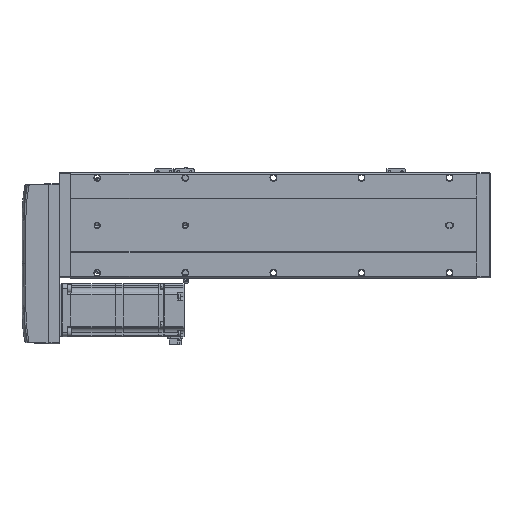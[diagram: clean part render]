
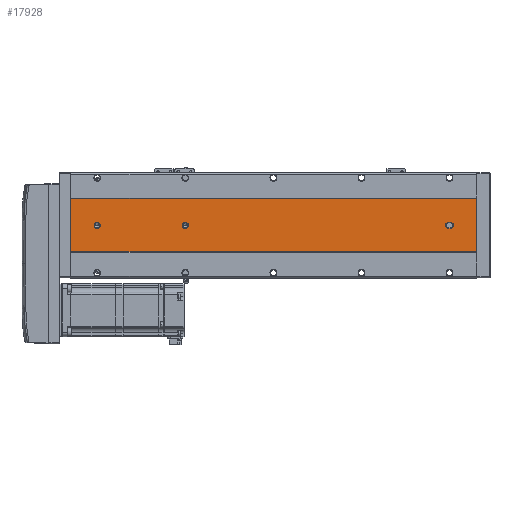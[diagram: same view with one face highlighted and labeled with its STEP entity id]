
A CAD part, front view. The second image highlights one B-rep face of the part: STEP entity #17928.
In plain terms, the highlighted planar face has unit normal (0, -1, 0).
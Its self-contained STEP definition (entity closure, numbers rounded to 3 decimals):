
#309 = VECTOR ( 'NONE', #60527, 1000. ) ;
#969 = DIRECTION ( 'NONE',  ( 0., 1., 0. ) ) ;
#1381 = ORIENTED_EDGE ( 'NONE', *, *, #59465, .T. ) ;
#1453 = ORIENTED_EDGE ( 'NONE', *, *, #68700, .T. ) ;
#1557 = EDGE_CURVE ( 'NONE', #54780, #21037, #77417, .T. ) ;
#1590 = CARTESIAN_POINT ( 'NONE',  ( -39.892, -52.848, 30. ) ) ;
#1938 = FACE_BOUND ( 'NONE', #61870, .T. ) ;
#2111 = DIRECTION ( 'NONE',  ( 0., 0., 1. ) ) ;
#2191 = ORIENTED_EDGE ( 'NONE', *, *, #1557, .F. ) ;
#2930 = CARTESIAN_POINT ( 'NONE',  ( -39.892, -52.848, 26.5 ) ) ;
#2931 = CIRCLE ( 'NONE', #20535, 3.5 ) ;
#3064 = CARTESIAN_POINT ( 'NONE',  ( -9.892, -52.848, 0. ) ) ;
#3771 = EDGE_CURVE ( 'NONE', #43017, #50522, #19777, .T. ) ;
#4142 = ORIENTED_EDGE ( 'NONE', *, *, #76692, .T. ) ;
#4808 = DIRECTION ( 'NONE',  ( 0., 0., 1. ) ) ;
#6538 = CARTESIAN_POINT ( 'NONE',  ( -43.392, -52.848, 461. ) ) ;
#6578 = CIRCLE ( 'NONE', #23317, 3.5 ) ;
#7129 = VECTOR ( 'NONE', #9629, 1000. ) ;
#8374 = EDGE_LOOP ( 'NONE', ( #1381, #47002 ) ) ;
#9089 = ORIENTED_EDGE ( 'NONE', *, *, #20696, .T. ) ;
#9419 = FACE_OUTER_BOUND ( 'NONE', #19069, .T. ) ;
#9629 = DIRECTION ( 'NONE',  ( 0., 0., -1. ) ) ;
#10677 = ORIENTED_EDGE ( 'NONE', *, *, #11744, .T. ) ;
#11744 = EDGE_CURVE ( 'NONE', #66891, #38755, #38916, .T. ) ;
#13024 = PLANE ( 'NONE',  #58949 ) ;
#13265 = VECTOR ( 'NONE', #66787, 1000. ) ;
#14032 = EDGE_LOOP ( 'NONE', ( #4142, #19218 ) ) ;
#14143 = CARTESIAN_POINT ( 'NONE',  ( -69.892, -52.848, 0. ) ) ;
#14411 = CARTESIAN_POINT ( 'NONE',  ( -36.392, -52.848, 30. ) ) ;
#15789 = AXIS2_PLACEMENT_3D ( 'NONE', #30866, #969, #72259 ) ;
#16179 = VERTEX_POINT ( 'NONE', #67541 ) ;
#16968 = CARTESIAN_POINT ( 'NONE',  ( -69.892, -52.848, 461. ) ) ;
#17928 = ADVANCED_FACE ( 'NONE', ( #1938, #41386, #27307, #9419 ), #13024, .F. ) ;
#18132 = LINE ( 'NONE', #6538, #309 ) ;
#18307 = DIRECTION ( 'NONE',  ( 1., 0., 0. ) ) ;
#19069 = EDGE_LOOP ( 'NONE', ( #9089, #2191, #38492, #10677 ) ) ;
#19218 = ORIENTED_EDGE ( 'NONE', *, *, #63668, .T. ) ;
#19219 = VERTEX_POINT ( 'NONE', #63360 ) ;
#19777 = CIRCLE ( 'NONE', #15789, 3.5 ) ;
#20535 = AXIS2_PLACEMENT_3D ( 'NONE', #70149, #63881, #46046 ) ;
#20619 = CARTESIAN_POINT ( 'NONE',  ( -36.392, -52.848, 32. ) ) ;
#20696 = EDGE_CURVE ( 'NONE', #38755, #21037, #68992, .T. ) ;
#21037 = VERTEX_POINT ( 'NONE', #3064 ) ;
#21322 = AXIS2_PLACEMENT_3D ( 'NONE', #61865, #31245, #2111 ) ;
#22101 = DIRECTION ( 'NONE',  ( 0., 1., 0. ) ) ;
#23317 = AXIS2_PLACEMENT_3D ( 'NONE', #32940, #29230, #4808 ) ;
#25005 = EDGE_CURVE ( 'NONE', #60704, #74140, #37697, .T. ) ;
#26132 = VERTEX_POINT ( 'NONE', #14411 ) ;
#26953 = EDGE_CURVE ( 'NONE', #54447, #19219, #38305, .T. ) ;
#27307 = FACE_BOUND ( 'NONE', #8374, .T. ) ;
#27518 = CARTESIAN_POINT ( 'NONE',  ( -9.892, -52.848, 461. ) ) ;
#27536 = CIRCLE ( 'NONE', #66321, 3.5 ) ;
#27874 = EDGE_CURVE ( 'NONE', #50522, #26132, #41525, .T. ) ;
#29075 = ORIENTED_EDGE ( 'NONE', *, *, #40218, .T. ) ;
#29230 = DIRECTION ( 'NONE',  ( 0., 1., 0. ) ) ;
#30123 = CARTESIAN_POINT ( 'NONE',  ( -69.892, -52.848, 0. ) ) ;
#30366 = CARTESIAN_POINT ( 'NONE',  ( -36.392, -52.848, 461. ) ) ;
#30866 = CARTESIAN_POINT ( 'NONE',  ( -39.892, -52.848, 32. ) ) ;
#31245 = DIRECTION ( 'NONE',  ( 0., 1., 0. ) ) ;
#31681 = DIRECTION ( 'NONE',  ( 0., 1., 0. ) ) ;
#32133 = CARTESIAN_POINT ( 'NONE',  ( -69.892, -52.848, 461. ) ) ;
#32940 = CARTESIAN_POINT ( 'NONE',  ( -39.892, -52.848, 431. ) ) ;
#34050 = VECTOR ( 'NONE', #65442, 1000. ) ;
#34862 = CARTESIAN_POINT ( 'NONE',  ( -43.392, -52.848, 32. ) ) ;
#34870 = VERTEX_POINT ( 'NONE', #66358 ) ;
#37033 = VECTOR ( 'NONE', #75584, 1000. ) ;
#37678 = CARTESIAN_POINT ( 'NONE',  ( -69.892, -52.848, 461. ) ) ;
#37697 = CIRCLE ( 'NONE', #66441, 3.5 ) ;
#37723 = DIRECTION ( 'NONE',  ( 0., 0., 1. ) ) ;
#38305 = CIRCLE ( 'NONE', #42497, 3.5 ) ;
#38492 = ORIENTED_EDGE ( 'NONE', *, *, #57854, .F. ) ;
#38755 = VERTEX_POINT ( 'NONE', #14143 ) ;
#38916 = LINE ( 'NONE', #32133, #37033 ) ;
#40218 = EDGE_CURVE ( 'NONE', #26132, #54447, #27536, .T. ) ;
#40411 = ORIENTED_EDGE ( 'NONE', *, *, #27874, .T. ) ;
#41386 = FACE_BOUND ( 'NONE', #14032, .T. ) ;
#41525 = LINE ( 'NONE', #30366, #13265 ) ;
#42497 = AXIS2_PLACEMENT_3D ( 'NONE', #62741, #56176, #68746 ) ;
#43017 = VERTEX_POINT ( 'NONE', #34862 ) ;
#43560 = DIRECTION ( 'NONE',  ( 0., 1., 0. ) ) ;
#43610 = ORIENTED_EDGE ( 'NONE', *, *, #26953, .T. ) ;
#44359 = LINE ( 'NONE', #16968, #34050 ) ;
#46046 = DIRECTION ( 'NONE',  ( 0., 0., 1. ) ) ;
#47002 = ORIENTED_EDGE ( 'NONE', *, *, #25005, .T. ) ;
#50305 = CARTESIAN_POINT ( 'NONE',  ( -39.892, -52.848, 427.5 ) ) ;
#50522 = VERTEX_POINT ( 'NONE', #20619 ) ;
#52195 = DIRECTION ( 'NONE',  ( 0., 0., 1. ) ) ;
#53024 = VECTOR ( 'NONE', #18307, 1000. ) ;
#53513 = CIRCLE ( 'NONE', #21322, 3.5 ) ;
#54410 = CARTESIAN_POINT ( 'NONE',  ( -69.892, -52.848, 461. ) ) ;
#54447 = VERTEX_POINT ( 'NONE', #2930 ) ;
#54780 = VERTEX_POINT ( 'NONE', #66551 ) ;
#55787 = DIRECTION ( 'NONE',  ( 0., 0., 1. ) ) ;
#56176 = DIRECTION ( 'NONE',  ( 0., 1., 0. ) ) ;
#57854 = EDGE_CURVE ( 'NONE', #66891, #54780, #44359, .T. ) ;
#57994 = CARTESIAN_POINT ( 'NONE',  ( -39.892, -52.848, 431. ) ) ;
#58949 = AXIS2_PLACEMENT_3D ( 'NONE', #54410, #31681, #37723 ) ;
#59465 = EDGE_CURVE ( 'NONE', #74140, #60704, #6578, .T. ) ;
#60527 = DIRECTION ( 'NONE',  ( 0., 0., 1. ) ) ;
#60693 = ORIENTED_EDGE ( 'NONE', *, *, #3771, .T. ) ;
#60704 = VERTEX_POINT ( 'NONE', #64930 ) ;
#61865 = CARTESIAN_POINT ( 'NONE',  ( -39.892, -52.848, 331. ) ) ;
#61870 = EDGE_LOOP ( 'NONE', ( #40411, #29075, #43610, #1453, #60693 ) ) ;
#62741 = CARTESIAN_POINT ( 'NONE',  ( -39.892, -52.848, 30. ) ) ;
#63360 = CARTESIAN_POINT ( 'NONE',  ( -43.392, -52.848, 30. ) ) ;
#63668 = EDGE_CURVE ( 'NONE', #16179, #34870, #2931, .T. ) ;
#63881 = DIRECTION ( 'NONE',  ( 0., 1., 0. ) ) ;
#64930 = CARTESIAN_POINT ( 'NONE',  ( -39.892, -52.848, 434.5 ) ) ;
#65442 = DIRECTION ( 'NONE',  ( 1., 0., 0. ) ) ;
#66321 = AXIS2_PLACEMENT_3D ( 'NONE', #1590, #43560, #55787 ) ;
#66358 = CARTESIAN_POINT ( 'NONE',  ( -39.892, -52.848, 327.5 ) ) ;
#66441 = AXIS2_PLACEMENT_3D ( 'NONE', #57994, #22101, #52195 ) ;
#66551 = CARTESIAN_POINT ( 'NONE',  ( -9.892, -52.848, 461. ) ) ;
#66787 = DIRECTION ( 'NONE',  ( 0., 0., -1. ) ) ;
#66891 = VERTEX_POINT ( 'NONE', #37678 ) ;
#67541 = CARTESIAN_POINT ( 'NONE',  ( -39.892, -52.848, 334.5 ) ) ;
#68700 = EDGE_CURVE ( 'NONE', #19219, #43017, #18132, .T. ) ;
#68746 = DIRECTION ( 'NONE',  ( 0., 0., 1. ) ) ;
#68992 = LINE ( 'NONE', #30123, #53024 ) ;
#70149 = CARTESIAN_POINT ( 'NONE',  ( -39.892, -52.848, 331. ) ) ;
#72259 = DIRECTION ( 'NONE',  ( 0., 0., 1. ) ) ;
#74140 = VERTEX_POINT ( 'NONE', #50305 ) ;
#75584 = DIRECTION ( 'NONE',  ( 0., 0., -1. ) ) ;
#76692 = EDGE_CURVE ( 'NONE', #34870, #16179, #53513, .T. ) ;
#77417 = LINE ( 'NONE', #27518, #7129 ) ;
